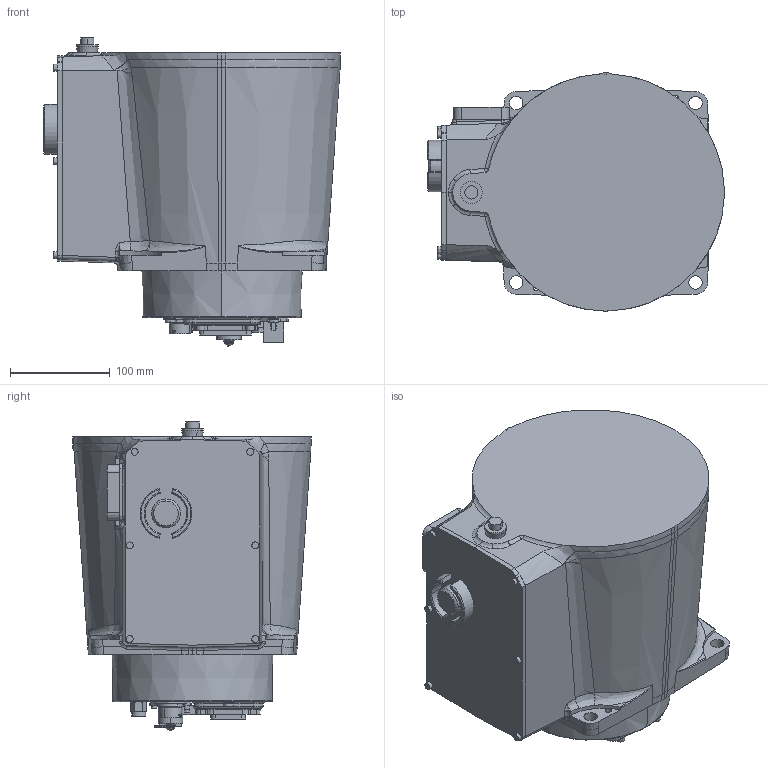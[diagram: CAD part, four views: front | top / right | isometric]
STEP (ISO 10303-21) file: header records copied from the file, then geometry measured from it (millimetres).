
FILE_DESCRIPTION (( 'STEP AP203' ), '1' );
FILE_NAME ('base_bottom.STEP', '2013-12-01T13:56:29', ( 'ABB' ), ( 'ABB' ), 'SwSTEP 2.0', 'SolidWorks 2012', '' );
FILE_SCHEMA (( 'CONFIG_CONTROL_DESIGN' ));
Length unit declared in the file: millimetre
Products named in the file (1): base_bottom
Bounding box: 298.07 x 239.07 x 309.45 mm (x, y, z)
Volume: 11622173.4 mm3; surface area: 338071.7 mm2
Topology: 2 solids, 2 shells, 690 faces, 1713 edges, 1053 vertices
Faces by surface type: plane 221, cylinder 185, cone 121, bspline 112, torus 47, sphere 4
Entity records: 28485 total; most frequent: CARTESIAN_POINT 13239, ORIENTED_EDGE 3404, DIRECTION 2892, EDGE_CURVE 1702, AXIS2_PLACEMENT_3D 1128, VERTEX_POINT 1053, EDGE_LOOP 739, ADVANCED_FACE 690
